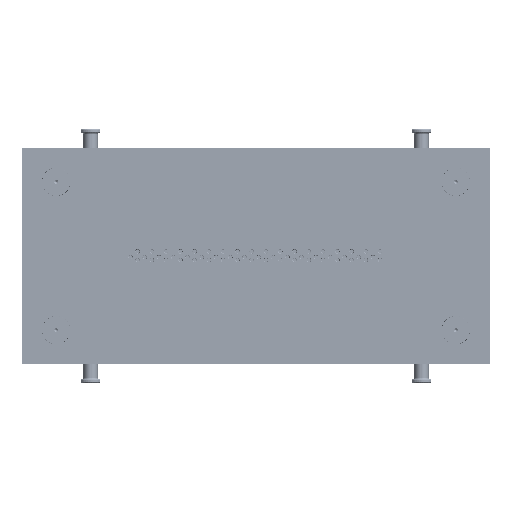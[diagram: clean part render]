
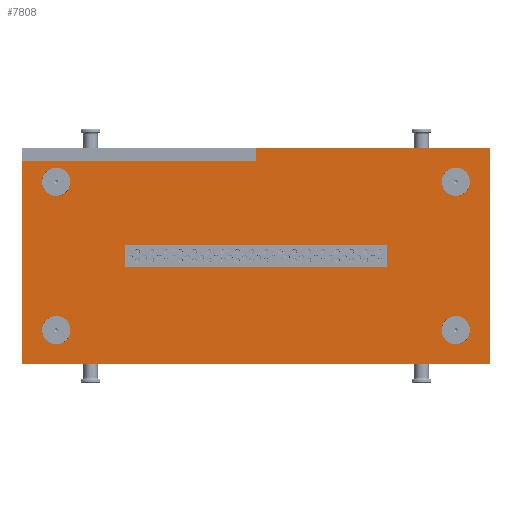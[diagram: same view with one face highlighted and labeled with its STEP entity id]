
A CAD part, left-side view. The second image highlights one B-rep face of the part: STEP entity #7808.
In plain terms, the highlighted planar face has unit normal (-1, 0, 0).
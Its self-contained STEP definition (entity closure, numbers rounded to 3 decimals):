
#7808=ADVANCED_FACE('',(#12339,#12341,#12343,#12345,#12347,#12349),#12351,.F.);
#12339=FACE_BOUND('',#12340,.T.);
#12340=EDGE_LOOP('',(#27735,#27736,#27737,#27738,#27739,#27740,#27741));
#12341=FACE_BOUND('',#12342,.T.);
#12342=EDGE_LOOP('',(#27742,#27743,#27744,#27745,#27746,#27747,#27748,#27749));
#12343=FACE_BOUND('',#12344,.T.);
#12344=EDGE_LOOP('',(#27750));
#12345=FACE_BOUND('',#12346,.T.);
#12346=EDGE_LOOP('',(#27751));
#12347=FACE_BOUND('',#12348,.T.);
#12348=EDGE_LOOP('',(#27752));
#12349=FACE_BOUND('',#12350,.T.);
#12350=EDGE_LOOP('',(#27753));
#12351=PLANE('',#12352);
#12352=AXIS2_PLACEMENT_3D('',#12353,#12354,#12355);
#12353=CARTESIAN_POINT('',(0.,0.,0.));
#12354=DIRECTION('',(1.,0.,0.));
#12355=DIRECTION('',(0.,1.,0.));
#27735=ORIENTED_EDGE('',*,*,#33234,.F.);
#27736=ORIENTED_EDGE('',*,*,#33231,.T.);
#27737=ORIENTED_EDGE('',*,*,#33161,.F.);
#27738=ORIENTED_EDGE('',*,*,#33170,.F.);
#27739=ORIENTED_EDGE('',*,*,#33168,.F.);
#27740=ORIENTED_EDGE('',*,*,#33163,.F.);
#27741=ORIENTED_EDGE('',*,*,#33235,.T.);
#27742=ORIENTED_EDGE('',*,*,#33183,.F.);
#27743=ORIENTED_EDGE('',*,*,#33197,.T.);
#27744=ORIENTED_EDGE('',*,*,#33195,.F.);
#27745=ORIENTED_EDGE('',*,*,#33194,.T.);
#27746=ORIENTED_EDGE('',*,*,#33191,.F.);
#27747=ORIENTED_EDGE('',*,*,#33189,.T.);
#27748=ORIENTED_EDGE('',*,*,#33187,.F.);
#27749=ORIENTED_EDGE('',*,*,#33185,.T.);
#27750=ORIENTED_EDGE('',*,*,#33236,.T.);
#27751=ORIENTED_EDGE('',*,*,#33237,.T.);
#27752=ORIENTED_EDGE('',*,*,#33238,.T.);
#27753=ORIENTED_EDGE('',*,*,#33239,.T.);
#33161=EDGE_CURVE('',#36000,#35994,#36002,.T.);
#33163=EDGE_CURVE('',#36004,#36006,#36007,.T.);
#33168=EDGE_CURVE('',#36006,#36014,#36015,.T.);
#33170=EDGE_CURVE('',#36014,#36000,#36017,.T.);
#33183=EDGE_CURVE('',#36040,#36042,#36043,.F.);
#33185=EDGE_CURVE('',#36045,#36042,#36046,.T.);
#33187=EDGE_CURVE('',#36045,#36048,#36049,.F.);
#33189=EDGE_CURVE('',#36051,#36048,#36052,.T.);
#33191=EDGE_CURVE('',#36051,#36054,#36055,.F.);
#33194=EDGE_CURVE('',#36057,#36054,#36059,.T.);
#33195=EDGE_CURVE('',#36057,#36060,#36061,.F.);
#33197=EDGE_CURVE('',#36040,#36060,#36063,.T.);
#33231=EDGE_CURVE('',#36127,#35994,#36130,.T.);
#33234=EDGE_CURVE('',#36127,#36134,#36135,.F.);
#33235=EDGE_CURVE('',#36004,#36134,#36136,.T.);
#33236=EDGE_CURVE('',#36137,#36137,#36138,.T.);
#33237=EDGE_CURVE('',#36139,#36139,#36140,.T.);
#33238=EDGE_CURVE('',#36141,#36141,#36142,.T.);
#33239=EDGE_CURVE('',#36143,#36143,#36144,.T.);
#35994=VERTEX_POINT('',#41294);
#36000=VERTEX_POINT('',#41306);
#36002=LINE('',#41310,#41311);
#36004=VERTEX_POINT('',#41314);
#36006=VERTEX_POINT('',#41318);
#36007=LINE('',#41319,#41320);
#36014=VERTEX_POINT('',#41338);
#36015=LINE('',#41339,#41340);
#36017=LINE('',#41345,#41346);
#36040=VERTEX_POINT('',#41403);
#36042=VERTEX_POINT('',#41407);
#36043=CIRCLE('',#41408,4.);
#36045=VERTEX_POINT('',#41415);
#36046=LINE('',#41416,#41417);
#36048=VERTEX_POINT('',#41422);
#36049=CIRCLE('',#41423,4.);
#36051=VERTEX_POINT('',#41430);
#36052=LINE('',#41431,#41432);
#36054=VERTEX_POINT('',#41437);
#36055=CIRCLE('',#41438,4.);
#36057=VERTEX_POINT('',#41445);
#36059=LINE('',#41449,#41450);
#36060=VERTEX_POINT('',#41452);
#36061=CIRCLE('',#41453,4.);
#36063=LINE('',#41460,#41461);
#36127=VERTEX_POINT('',#41619);
#36130=LINE('',#41626,#41627);
#36134=VERTEX_POINT('',#41637);
#36135=CIRCLE('',#41638,3.);
#36136=LINE('',#41642,#41643);
#36137=VERTEX_POINT('',#41645);
#36138=CIRCLE('',#41646,25.);
#36139=VERTEX_POINT('',#41650);
#36140=CIRCLE('',#41651,25.);
#36141=VERTEX_POINT('',#41655);
#36142=CIRCLE('',#41656,25.);
#36143=VERTEX_POINT('',#41660);
#36144=CIRCLE('',#41661,25.);
#41294=CARTESIAN_POINT('',(0.,820.,356.));
#41306=CARTESIAN_POINT('',(0.,820.,0.));
#41310=CARTESIAN_POINT('',(0.,820.,0.));
#41311=VECTOR('',#41312,1.);
#41312=DIRECTION('',(0.,0.,1.));
#41314=CARTESIAN_POINT('',(0.,410.,380.));
#41318=CARTESIAN_POINT('',(0.,0.,380.));
#41319=CARTESIAN_POINT('',(0.,410.,380.));
#41320=VECTOR('',#41321,1.);
#41321=DIRECTION('',(0.,-1.,0.));
#41338=CARTESIAN_POINT('',(0.,0.,0.));
#41339=CARTESIAN_POINT('',(0.,0.,380.));
#41340=VECTOR('',#41341,1.);
#41341=DIRECTION('',(0.,0.,-1.));
#41345=CARTESIAN_POINT('',(0.,0.,0.));
#41346=VECTOR('',#41347,1.);
#41347=DIRECTION('',(0.,1.,0.));
#41403=CARTESIAN_POINT('',(0.,636.,210.));
#41407=CARTESIAN_POINT('',(0.,640.,206.));
#41408=AXIS2_PLACEMENT_3D('',#41409,#41410,#41411);
#41409=CARTESIAN_POINT('',(0.,636.,206.));
#41410=DIRECTION('',(1.,0.,0.));
#41411=DIRECTION('',(0.,1.,0.));
#41415=CARTESIAN_POINT('',(0.,640.,174.));
#41416=CARTESIAN_POINT('',(0.,640.,174.));
#41417=VECTOR('',#41418,1.);
#41418=DIRECTION('',(0.,0.,1.));
#41422=CARTESIAN_POINT('',(0.,636.,170.));
#41423=AXIS2_PLACEMENT_3D('',#41424,#41425,#41426);
#41424=CARTESIAN_POINT('',(0.,636.,174.));
#41425=DIRECTION('',(1.,0.,0.));
#41426=DIRECTION('',(0.,0.,-1.));
#41430=CARTESIAN_POINT('',(0.,184.,170.));
#41431=CARTESIAN_POINT('',(0.,184.,170.));
#41432=VECTOR('',#41433,1.);
#41433=DIRECTION('',(0.,1.,0.));
#41437=CARTESIAN_POINT('',(0.,180.,174.));
#41438=AXIS2_PLACEMENT_3D('',#41439,#41440,#41441);
#41439=CARTESIAN_POINT('',(0.,184.,174.));
#41440=DIRECTION('',(1.,0.,0.));
#41441=DIRECTION('',(0.,-1.,0.));
#41445=CARTESIAN_POINT('',(0.,180.,206.));
#41449=CARTESIAN_POINT('',(0.,180.,206.));
#41450=VECTOR('',#41451,1.);
#41451=DIRECTION('',(0.,0.,-1.));
#41452=CARTESIAN_POINT('',(0.,184.,210.));
#41453=AXIS2_PLACEMENT_3D('',#41454,#41455,#41456);
#41454=CARTESIAN_POINT('',(0.,184.,206.));
#41455=DIRECTION('',(1.,0.,0.));
#41456=DIRECTION('',(0.,0.,1.));
#41460=CARTESIAN_POINT('',(0.,636.,210.));
#41461=VECTOR('',#41462,1.);
#41462=DIRECTION('',(0.,-1.,0.));
#41619=CARTESIAN_POINT('',(0.,413.,356.));
#41626=CARTESIAN_POINT('',(0.,413.,356.));
#41627=VECTOR('',#41628,1.);
#41628=DIRECTION('',(0.,1.,0.));
#41637=CARTESIAN_POINT('',(0.,410.,359.));
#41638=AXIS2_PLACEMENT_3D('',#41639,#41640,#41641);
#41639=CARTESIAN_POINT('',(0.,413.,359.));
#41640=DIRECTION('',(1.,0.,0.));
#41641=DIRECTION('',(0.,-1.,0.));
#41642=CARTESIAN_POINT('',(0.,410.,380.));
#41643=VECTOR('',#41644,1.);
#41644=DIRECTION('',(0.,0.,-1.));
#41645=CARTESIAN_POINT('',(0.,785.,320.));
#41646=AXIS2_PLACEMENT_3D('',#41647,#41648,#41649);
#41647=CARTESIAN_POINT('',(0.,760.,320.));
#41648=DIRECTION('',(1.,0.,0.));
#41649=DIRECTION('',(0.,1.,0.));
#41650=CARTESIAN_POINT('',(0.,785.,60.));
#41651=AXIS2_PLACEMENT_3D('',#41652,#41653,#41654);
#41652=CARTESIAN_POINT('',(0.,760.,60.));
#41653=DIRECTION('',(1.,0.,0.));
#41654=DIRECTION('',(0.,1.,0.));
#41655=CARTESIAN_POINT('',(0.,85.,60.));
#41656=AXIS2_PLACEMENT_3D('',#41657,#41658,#41659);
#41657=CARTESIAN_POINT('',(0.,60.,60.));
#41658=DIRECTION('',(1.,0.,0.));
#41659=DIRECTION('',(0.,1.,0.));
#41660=CARTESIAN_POINT('',(0.,85.,320.));
#41661=AXIS2_PLACEMENT_3D('',#41662,#41663,#41664);
#41662=CARTESIAN_POINT('',(0.,60.,320.));
#41663=DIRECTION('',(1.,0.,0.));
#41664=DIRECTION('',(0.,1.,0.));
